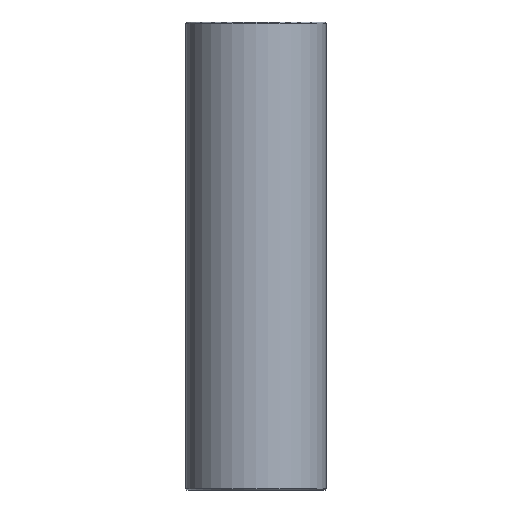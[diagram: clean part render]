
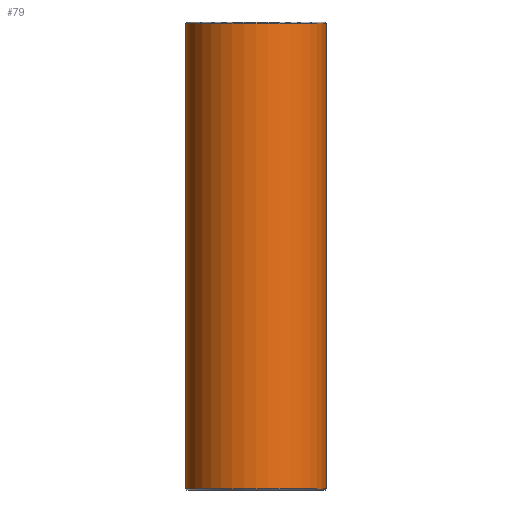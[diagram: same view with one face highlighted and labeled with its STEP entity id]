
A CAD part, front view. The second image highlights one B-rep face of the part: STEP entity #79.
In plain terms, the highlighted cylindrical face has radius 12 mm (diameter 24 mm), a full revolution.
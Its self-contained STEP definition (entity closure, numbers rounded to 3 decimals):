
#79=ADVANCED_FACE('',(#96,#97),#98,.T.);
#96=FACE_OUTER_BOUND('',#120,.T.);
#97=FACE_OUTER_BOUND('',#121,.T.);
#98=CYLINDRICAL_SURFACE('',#122,12.0);
#120=EDGE_LOOP('',(#152));
#121=EDGE_LOOP('',(#153));
#122=AXIS2_PLACEMENT_3D('',#154,#155,#156);
#152=ORIENTED_EDGE('',*,*,#178,.T.);
#153=ORIENTED_EDGE('',*,*,#177,.T.);
#154=CARTESIAN_POINT('',(0.,0.0,80.0));
#155=DIRECTION('',(0.0,0.0,-1.0));
#156=DIRECTION('',(-1.0,0.0,0.0));
#177=EDGE_CURVE('',#190,#190,#191,.T.);
#178=EDGE_CURVE('',#192,#192,#193,.F.);
#190=VERTEX_POINT('',#206);
#191=CIRCLE('',#207,12.0);
#192=VERTEX_POINT('',#208);
#193=CIRCLE('',#209,12.0);
#206=CARTESIAN_POINT('',(12.0,0.0,0.2));
#207=AXIS2_PLACEMENT_3D('',#227,#228,#229);
#208=CARTESIAN_POINT('',(12.0,0.,79.8));
#209=AXIS2_PLACEMENT_3D('',#230,#231,#232);
#227=CARTESIAN_POINT('',(0.,0.0,0.2));
#228=DIRECTION('',(0.0,0.0,1.0));
#229=DIRECTION('',(1.0,0.0,0.0));
#230=CARTESIAN_POINT('',(0.,0.0,79.8));
#231=DIRECTION('',(0.0,0.0,1.0));
#232=DIRECTION('',(1.0,0.0,0.0));
